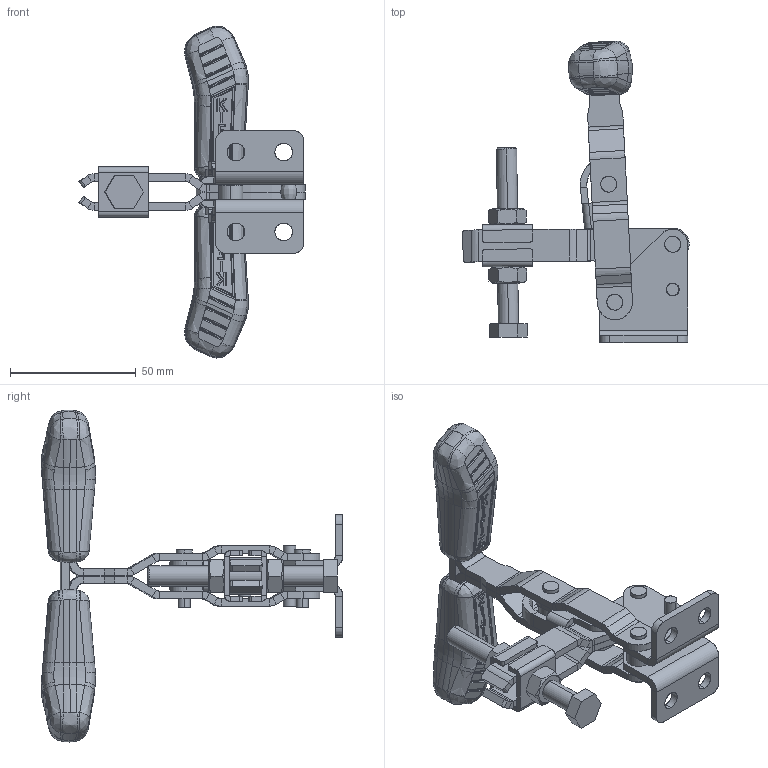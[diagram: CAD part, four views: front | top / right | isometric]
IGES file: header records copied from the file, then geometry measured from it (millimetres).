
Start section: SolidWorks IGES file using analytic representation for surfaces
Global section: file name: C:\Projetos\Grampos\KF-017 T\KF-017 DT\KF-017 DT.IGS; native system: SolidWorks 2018; preprocessor: SolidWorks 2018; author: Ricardo; date: 180604.142403; units: millimetre
Bounding box: 89.94 x 119.89 x 131.96 mm (x, y, z)
Surface area: 50870.7 mm2 (no closed solid volume)
Topology: 0 solids, 0 shells, 1739 faces, 15555 edges, 15437 vertices
Faces by surface type: bspline 1071, revolution 668
